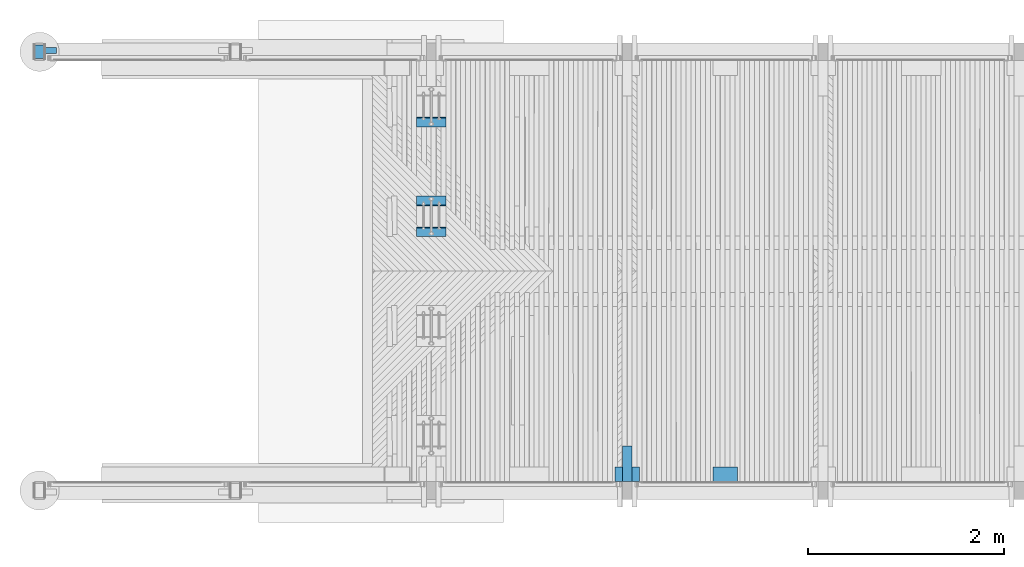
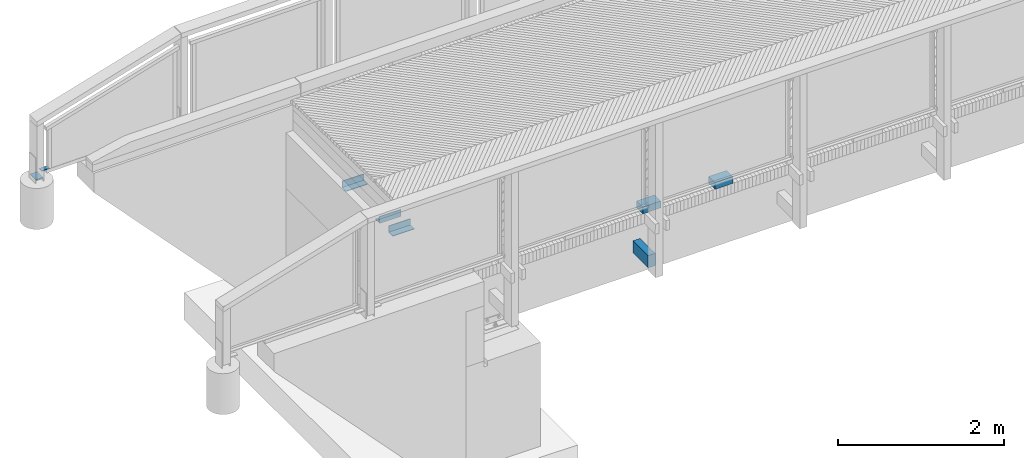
# One storey, part 51 of 65: 8 beams.
"""IFC2X3 building model written with IfcOpenShell, lengths in millimetres."""

from ifc_helpers import new_model, si_unit, frame, origin_with_axes, place, context, subcontext, project, spatial, faceted_brep, material, type_object, element, save


model = new_model("IFC2X3")

# Units and contexts
model_context = context("Model", 3, precision=1e-05, world=origin_with_axes())
body_context = subcontext(model_context, "Body", "Model", "MODEL_VIEW")
ifc_project = project(units=[si_unit("LENGTHUNIT", "METRE", prefix="MILLI"), si_unit("AREAUNIT", "SQUARE_METRE"), si_unit("VOLUMEUNIT", "CUBIC_METRE"), si_unit("MASSUNIT", "GRAM", prefix="KILO"), si_unit("TIMEUNIT", "SECOND"), si_unit("PLANEANGLEUNIT", "RADIAN"), si_unit("SOLIDANGLEUNIT", "STERADIAN"), si_unit("THERMODYNAMICTEMPERATUREUNIT", "DEGREE_CELSIUS"), si_unit("LUMINOUSINTENSITYUNIT", "LUMEN")], contexts=[model_context])

# Site, building, storey
site_placement = place(None, origin_with_axes())
site = spatial("IfcSite", under=ifc_project, at=site_placement, Name="Undefined", CompositionType="ELEMENT")
building_placement = place(site_placement, origin_with_axes())
building = spatial("IfcBuilding", under=site, at=building_placement, Name="Undefined", CompositionType="ELEMENT")
storey_placement = place(building_placement, origin_with_axes())
storey = spatial("IfcBuildingStorey", under=building, at=storey_placement, Name="Undefined", CompositionType="ELEMENT", Elevation=0.0)

# Beams
ifc_material_1 = material(Name="STEEL/AISI316")
beam_type_1 = type_object("IfcBeamType", Name="PL60*10", PredefinedType="NOTDEFINED")
beam_1_placement = place(storey_placement, frame((-3940.00349607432, 24620.0000002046, 3147.80999999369), z_axis=(-0.000116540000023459, -0.999999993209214, 0.0), x_axis=(0.999999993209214, -0.000116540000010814, 0.0)))
element("IfcBeam", 1, at=beam_1_placement, inside=storey, type_object=beam_type_1, material=ifc_material_1, Name="KAIDEPYLVÄS", ObjectType="PL60*10", context=body_context, shape_type="Brep", body=[
    faceted_brep([(0.0, 5.0, -30.0), (0.0, 5.0, 30.0), (115.000000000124, 5.0, 30.0), (115.00000000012, 5.0, -30.0), (0.0, -5.0, 30.0), (115.000000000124, -5.0, 30.0), (0.0, -5.0, -30.0), (115.00000000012, -5.0, -30.0)], [[[0, 1, 2, 3]], [[1, 4, 5, 2]], [[4, 6, 7, 5]], [[6, 0, 3, 7]], [[5, 7, 3, 2]], [[6, 4, 1, 0]]]),
])
beam_type_2 = type_object("IfcBeamType", Name="PL100*10", PredefinedType="NOTDEFINED")
beam_2_placement = place(storey_placement, frame((-3999.99999987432, 24674.9800000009, 3089.56000000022), z_axis=(-1.0, 0.0, 0.0), x_axis=(0.0, -1.0, 0.0)))
element("IfcBeam", 2, at=beam_2_placement, inside=storey, type_object=beam_type_2, material=ifc_material_1, Name="KAIDEPYLVÄS", ObjectType="PL100*10", context=body_context, shape_type="Brep", body=[
    faceted_brep([(0.0, 5.0, -50.0), (0.0, 5.0, 50.0), (140.0, 5.0, 50.0), (140.0, 5.0, -50.0), (0.0, -5.0, 50.0), (140.0, -5.0, 50.0), (0.0, -5.0, -50.0), (140.0, -5.0, -50.0)], [[[0, 1, 2, 3]], [[1, 4, 5, 2]], [[4, 6, 7, 5]], [[6, 0, 3, 7]], [[5, 7, 3, 2]], [[6, 4, 1, 0]]]),
])
ifc_material_2 = material(Name="TIMBER/Timber_Undefined")
beam_type_3 = type_object("IfcBeamType", Name="150*100", PredefinedType="NOTDEFINED")
for number, where, z_axis, x_axis in (
    (3, (2876.78354707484, 20289.9999999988, 3196.15064859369), (0.0, -1.0, 0.0), (0.999952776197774, 0.0, 0.00971830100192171)),
    (4, (1876.41959979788, 20289.9999999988, 3186.80706939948), (0.0, -1.0, 0.0), (0.999935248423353, 0.0, 0.0113797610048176)),
):
    element("IfcBeam", number, at=place(storey_placement, frame(where, z_axis=z_axis, x_axis=x_axis)), inside=storey, type_object=beam_type_3, material=ifc_material_2, Name="TÖRMÄYSJOHDE", ObjectType="150*100", context=body_context, shape_type="Brep", body=[
        faceted_brep([(-3.63797880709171e-12, 50.0, -75.0), (-3.63797880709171e-12, 50.0, 75.0), (250.000589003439, 50.0000000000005, 75.0), (250.000589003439, 50.0000000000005, -75.0), (0.0, -49.9999999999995, 75.0), (250.000589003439, -50.0, 75.0), (0.0, -49.9999999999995, -75.0), (250.000589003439, -50.0, -75.0)], [[[0, 1, 2, 3]], [[1, 4, 5, 2]], [[4, 6, 7, 5]], [[6, 0, 3, 7]], [[5, 7, 3, 2]], [[6, 4, 1, 0]]]),
    ])
beam_type_4 = type_object("IfcBeamType", Name="180*100", PredefinedType="NOTDEFINED")
beam_3_placement = place(storey_placement, frame((2000.00006783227, 20215.0120919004, 2408.46176658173), z_axis=(0.0, 0.0, 1.0), x_axis=(0.0, 1.0, 0.0)))
element("IfcBeam", 5, at=beam_3_placement, inside=storey, type_object=beam_type_4, material=ifc_material_2, Name="KAIDEPYLVÄS", ObjectType="180*100", context=body_context, shape_type="Brep", body=[
    faceted_brep([(0.0, 50.0, -90.0), (0.0, 50.0, 90.0), (363.740000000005, 50.0, 90.0), (363.740000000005, 50.0, -90.0), (0.0, -50.0, 90.0), (363.740000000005, -50.0, 90.0), (0.0, -50.0, -90.0), (363.740000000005, -50.0, -90.0)], [[[0, 1, 2, 3]], [[1, 4, 5, 2]], [[4, 6, 7, 5]], [[6, 0, 3, 7]], [[5, 7, 3, 2]], [[6, 4, 1, 0]]]),
])
ifc_material_3 = material(Name="STEEL/S235JR")
beam_type_5 = type_object("IfcBeamType", Name="L100*10", PredefinedType="NOTDEFINED")
for number, where, z_axis, x_axis, name in (
    (6, (150.0, 22767.5000000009, 2047.33), (0.0, -1.0, 0.0), (-1.0, 0.0, 0.0), "BEAM"),
    (7, (150.0, 23082.5000000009, 2047.33), (0.0, 0.0, 1.0), (-1.0, 0.0, 0.0), "BEAM"),
    (8, (150.0, 23887.5000000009, 2025.33), (0.0, -1.0, 0.0), (-1.0, 0.0, 0.0), "BEAM"),
):
    element("IfcBeam", number, at=place(storey_placement, frame(where, z_axis=z_axis, x_axis=x_axis)), inside=storey, type_object=beam_type_5, material=ifc_material_3, Name=name, ObjectType="L100*10", context=body_context, shape_type="Brep", body=[
        faceted_brep([(0.0, 50.0, -50.0), (0.0, 50.0, 50.0), (300.0, 50.0, 50.0), (300.0, 50.0, -50.0), (0.0, 40.0, 50.0), (300.0, 40.0, 50.0), (0.0, 40.0, -40.0), (300.0, 40.0, -40.0), (0.0, -50.0, -40.0), (300.0, -50.0, -40.0), (0.0, -50.0, -50.0), (300.0, -50.0, -50.0)], [[[0, 1, 2, 3]], [[1, 4, 5, 2]], [[4, 6, 7, 5]], [[6, 8, 9, 7]], [[8, 10, 11, 9]], [[10, 0, 3, 11]], [[5, 7, 9, 11, 3, 2]], [[10, 8, 6, 4, 1, 0]]]),
    ])

save(model, "model.ifc")
